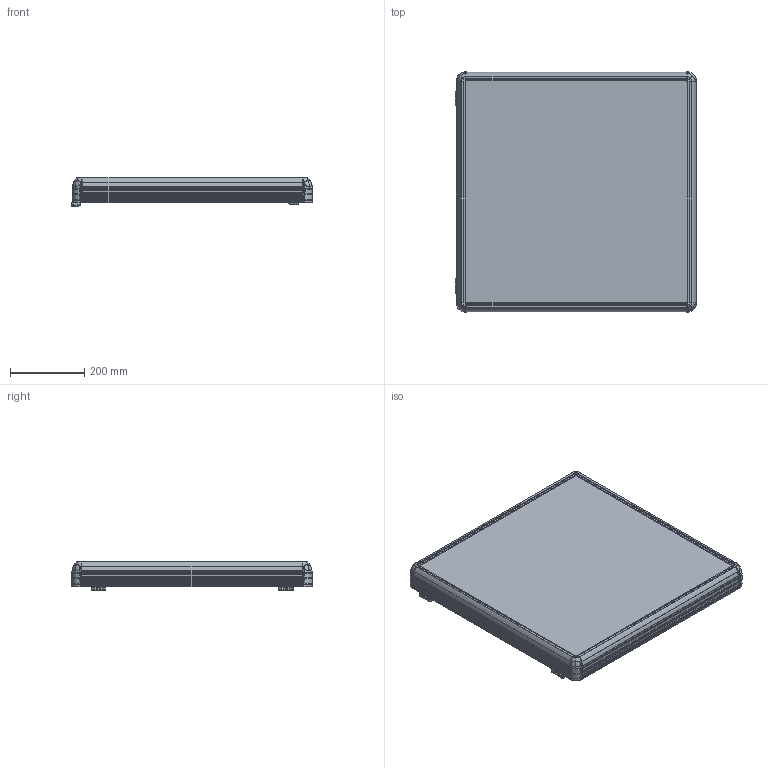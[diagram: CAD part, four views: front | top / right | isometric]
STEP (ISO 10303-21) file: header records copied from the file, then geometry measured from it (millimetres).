
FILE_DESCRIPTION (( 'STEP AP214' ), '1' );
FILE_NAME ('6000-0016.STEP', '2022-08-31T12:40:25', ( '' ), ( '' ), 'SwSTEP 2.0', 'SolidWorks 2022', '' );
FILE_SCHEMA (( 'AUTOMOTIVE_DESIGN' ));
Length unit declared in the file: millimetre
Products named in the file (6): 6000-0016; HPECO-060-001-495_595; ECO6000-0000; ARKA_KAPAK_600X600; HPECO-060-001-395_595; 600X600
Assembly tree (10 placements, depth 2):
  6000-0016
    600X600
    HPECO-060-001-495_595  x2
    HPECO-060-001-395_595  x2
    ECO6000-0000  x4
    ARKA_KAPAK_600X600
Bounding box: 649.03 x 647 x 79.15 mm (x, y, z)
Volume: 3171919.1 mm3; surface area: 2433334.6 mm2
Topology: 18 solids, 80 shells, 5381 faces, 14472 edges, 9022 vertices
Faces by surface type: plane 2157, cylinder 1464, bspline 932, cone 526, torus 256, sphere 46
Entity records: 144497 total; most frequent: CARTESIAN_POINT 33782, ORIENTED_EDGE 17686, DIRECTION 15813, EDGE_CURVE 8843, AXIS2_PLACEMENT_3D 5831, VERTEX_POINT 5515, VECTOR 4151, LINE 4151
